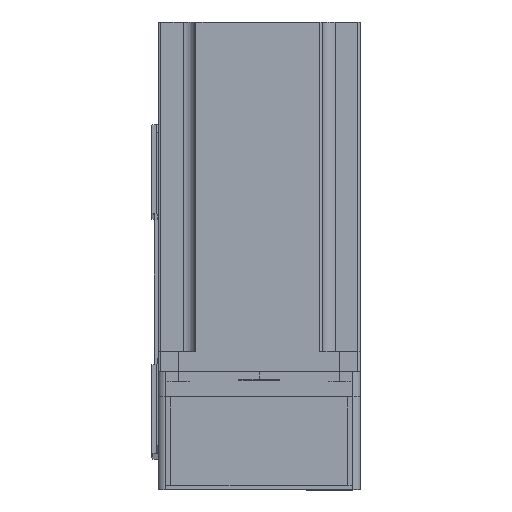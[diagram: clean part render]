
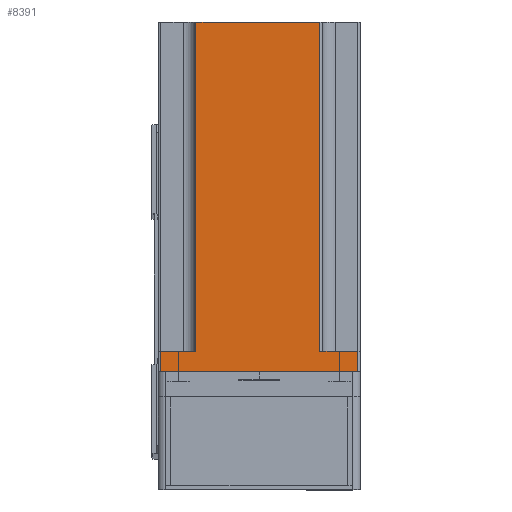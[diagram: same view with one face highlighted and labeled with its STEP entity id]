
A CAD part, top view. The second image highlights one B-rep face of the part: STEP entity #8391.
In plain terms, the highlighted planar face has unit normal (0, 0, 1) as drawn and (-1, 0, 0) by its records, which use the part's own axes.
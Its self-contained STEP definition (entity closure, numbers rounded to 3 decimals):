
#293 = VECTOR ( 'NONE', #27453, 1000. ) ;
#1873 = ORIENTED_EDGE ( 'NONE', *, *, #52385, .T. ) ;
#1986 = CARTESIAN_POINT ( 'NONE',  ( -40., -24., 138.3 ) ) ;
#2316 = CARTESIAN_POINT ( 'NONE',  ( -40., 40., 8. ) ) ;
#2425 = EDGE_LOOP ( 'NONE', ( #32525, #1873, #44400, #52914, #10061, #50746, #42807, #6874 ) ) ;
#3163 = CARTESIAN_POINT ( 'NONE',  ( -40., 25., 138.3 ) ) ;
#3392 = PLANE ( 'NONE',  #42587 ) ;
#4517 = EDGE_CURVE ( 'NONE', #35904, #45300, #28631, .T. ) ;
#4962 = LINE ( 'NONE', #51878, #47959 ) ;
#5033 = FACE_OUTER_BOUND ( 'NONE', #2425, .T. ) ;
#5393 = VERTEX_POINT ( 'NONE', #46182 ) ;
#6529 = VECTOR ( 'NONE', #47698, 1000. ) ;
#6538 = DIRECTION ( 'NONE',  ( 0., 1., 0. ) ) ;
#6874 = ORIENTED_EDGE ( 'NONE', *, *, #37159, .T. ) ;
#7331 = LINE ( 'NONE', #24768, #18371 ) ;
#8391 = ADVANCED_FACE ( 'NONE', ( #5033 ), #3392, .F. ) ;
#10061 = ORIENTED_EDGE ( 'NONE', *, *, #20894, .T. ) ;
#10069 = LINE ( 'NONE', #19064, #293 ) ;
#10314 = CARTESIAN_POINT ( 'NONE',  ( -40., -24., 8. ) ) ;
#11960 = CARTESIAN_POINT ( 'NONE',  ( -40., -40., 138.3 ) ) ;
#15151 = DIRECTION ( 'NONE',  ( 0., 0., -1. ) ) ;
#16130 = DIRECTION ( 'NONE',  ( 0., 0., -1. ) ) ;
#16527 = VERTEX_POINT ( 'NONE', #30330 ) ;
#18294 = CARTESIAN_POINT ( 'NONE',  ( -40., -39., 138.3 ) ) ;
#18371 = VECTOR ( 'NONE', #49722, 1000. ) ;
#18594 = LINE ( 'NONE', #2316, #39466 ) ;
#18915 = VECTOR ( 'NONE', #51651, 1000. ) ;
#19064 = CARTESIAN_POINT ( 'NONE',  ( -40., -40., 0. ) ) ;
#20894 = EDGE_CURVE ( 'NONE', #35904, #5393, #18594, .T. ) ;
#21411 = CARTESIAN_POINT ( 'NONE',  ( -40., -39., 0. ) ) ;
#21512 = VECTOR ( 'NONE', #15151, 1000. ) ;
#23646 = CARTESIAN_POINT ( 'NONE',  ( -40., 39., 0. ) ) ;
#24768 = CARTESIAN_POINT ( 'NONE',  ( -40., -40., 8. ) ) ;
#27392 = LINE ( 'NONE', #18294, #18915 ) ;
#27453 = DIRECTION ( 'NONE',  ( 0., -1., 0. ) ) ;
#28002 = EDGE_CURVE ( 'NONE', #5393, #28457, #31286, .T. ) ;
#28457 = VERTEX_POINT ( 'NONE', #23646 ) ;
#28631 = LINE ( 'NONE', #51870, #6529 ) ;
#29235 = VECTOR ( 'NONE', #51871, 1000. ) ;
#30330 = CARTESIAN_POINT ( 'NONE',  ( -40., -24., 138.3 ) ) ;
#30775 = EDGE_CURVE ( 'NONE', #28457, #48353, #10069, .T. ) ;
#31286 = LINE ( 'NONE', #44279, #21512 ) ;
#32525 = ORIENTED_EDGE ( 'NONE', *, *, #45983, .F. ) ;
#35283 = DIRECTION ( 'NONE',  ( 0., -1., 0. ) ) ;
#35904 = VERTEX_POINT ( 'NONE', #41732 ) ;
#37092 = CARTESIAN_POINT ( 'NONE',  ( -40., -39., 8. ) ) ;
#37159 = EDGE_CURVE ( 'NONE', #48353, #40617, #27392, .T. ) ;
#39466 = VECTOR ( 'NONE', #6538, 1000. ) ;
#40617 = VERTEX_POINT ( 'NONE', #37092 ) ;
#41056 = DIRECTION ( 'NONE',  ( 1., 0., 0. ) ) ;
#41732 = CARTESIAN_POINT ( 'NONE',  ( -40., 25., 8. ) ) ;
#42587 = AXIS2_PLACEMENT_3D ( 'NONE', #11960, #41056, #16130 ) ;
#42807 = ORIENTED_EDGE ( 'NONE', *, *, #30775, .T. ) ;
#44279 = CARTESIAN_POINT ( 'NONE',  ( -40., 39., 138.3 ) ) ;
#44400 = ORIENTED_EDGE ( 'NONE', *, *, #47909, .F. ) ;
#45300 = VERTEX_POINT ( 'NONE', #3163 ) ;
#45983 = EDGE_CURVE ( 'NONE', #48518, #40617, #7331, .T. ) ;
#46182 = CARTESIAN_POINT ( 'NONE',  ( -40., 39., 8. ) ) ;
#47698 = DIRECTION ( 'NONE',  ( 0., 0., 1. ) ) ;
#47909 = EDGE_CURVE ( 'NONE', #45300, #16527, #4962, .T. ) ;
#47959 = VECTOR ( 'NONE', #35283, 1000. ) ;
#48353 = VERTEX_POINT ( 'NONE', #21411 ) ;
#48518 = VERTEX_POINT ( 'NONE', #10314 ) ;
#49722 = DIRECTION ( 'NONE',  ( 0., -1., 0. ) ) ;
#50746 = ORIENTED_EDGE ( 'NONE', *, *, #28002, .T. ) ;
#51448 = LINE ( 'NONE', #1986, #29235 ) ;
#51651 = DIRECTION ( 'NONE',  ( 0., 0., 1. ) ) ;
#51870 = CARTESIAN_POINT ( 'NONE',  ( -40., 25., 8. ) ) ;
#51871 = DIRECTION ( 'NONE',  ( 0., 0., 1. ) ) ;
#51878 = CARTESIAN_POINT ( 'NONE',  ( -40., -40., 138.3 ) ) ;
#52385 = EDGE_CURVE ( 'NONE', #48518, #16527, #51448, .T. ) ;
#52914 = ORIENTED_EDGE ( 'NONE', *, *, #4517, .F. ) ;
